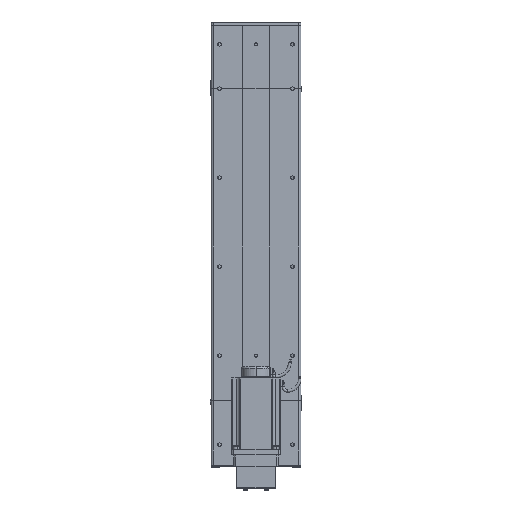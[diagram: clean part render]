
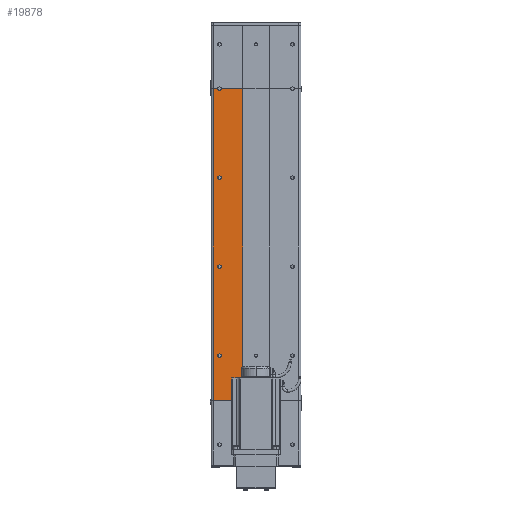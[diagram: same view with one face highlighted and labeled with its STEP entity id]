
A CAD part, front view. The second image highlights one B-rep face of the part: STEP entity #19878.
In plain terms, the highlighted planar face has unit normal (0, -1, 0).
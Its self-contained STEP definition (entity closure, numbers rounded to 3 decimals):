
#13178 = EDGE_LOOP ( 'NONE', ( #19297, #19805 ) ) ;
#17057 = VERTEX_POINT ( 'NONE', #26185 ) ;
#17543 = EDGE_CURVE ( 'NONE', #17057, #17591, #27019, .T. ) ;
#17591 = VERTEX_POINT ( 'NONE', #26995 ) ;
#17850 = EDGE_CURVE ( 'NONE', #17852, #17860, #27464, .T. ) ;
#17852 = VERTEX_POINT ( 'NONE', #27474 ) ;
#17860 = VERTEX_POINT ( 'NONE', #27441 ) ;
#17999 = EDGE_CURVE ( 'NONE', #18910, #18569, #27628, .T. ) ;
#18176 = EDGE_CURVE ( 'NONE', #18363, #18278, #27743, .T. ) ;
#18278 = VERTEX_POINT ( 'NONE', #27817 ) ;
#18363 = VERTEX_POINT ( 'NONE', #28124 ) ;
#18569 = VERTEX_POINT ( 'NONE', #28404 ) ;
#18689 = VERTEX_POINT ( 'NONE', #28070 ) ;
#18910 = VERTEX_POINT ( 'NONE', #28681 ) ;
#19089 = EDGE_CURVE ( 'NONE', #18689, #19162, #29346, .T. ) ;
#19118 = EDGE_LOOP ( 'NONE', ( #19563, #19881 ) ) ;
#19162 = VERTEX_POINT ( 'NONE', #29071 ) ;
#19297 = ORIENTED_EDGE ( 'NONE', *, *, #19615, .F. ) ;
#19444 = ORIENTED_EDGE ( 'NONE', *, *, #17850, .F. ) ;
#19563 = ORIENTED_EDGE ( 'NONE', *, *, #19705, .F. ) ;
#19586 = VERTEX_POINT ( 'NONE', #30130 ) ;
#19606 = ORIENTED_EDGE ( 'NONE', *, *, #19612, .F. ) ;
#19611 = EDGE_CURVE ( 'NONE', #19586, #18569, #30091, .T. ) ;
#19612 = EDGE_CURVE ( 'NONE', #19162, #18910, #30096, .T. ) ;
#19615 = EDGE_CURVE ( 'NONE', #18278, #18363, #29530, .T. ) ;
#19617 = ORIENTED_EDGE ( 'NONE', *, *, #19089, .F. ) ;
#19620 = EDGE_CURVE ( 'NONE', #18689, #19788, #28975, .T. ) ;
#19622 = ORIENTED_EDGE ( 'NONE', *, *, #17999, .F. ) ;
#19632 = EDGE_LOOP ( 'NONE', ( #19834, #19444 ) ) ;
#19705 = EDGE_CURVE ( 'NONE', #17591, #17057, #30497, .T. ) ;
#19732 = EDGE_CURVE ( 'NONE', #17860, #17852, #30396, .T. ) ;
#19761 = EDGE_LOOP ( 'NONE', ( #19622, #19606, #19617, #19791, #19795, #19794 ) ) ;
#19788 = VERTEX_POINT ( 'NONE', #30609 ) ;
#19791 = ORIENTED_EDGE ( 'NONE', *, *, #19620, .T. ) ;
#19793 = EDGE_CURVE ( 'NONE', #19788, #19586, #30617, .T. ) ;
#19794 = ORIENTED_EDGE ( 'NONE', *, *, #19611, .T. ) ;
#19795 = ORIENTED_EDGE ( 'NONE', *, *, #19793, .T. ) ;
#19805 = ORIENTED_EDGE ( 'NONE', *, *, #18176, .F. ) ;
#19834 = ORIENTED_EDGE ( 'NONE', *, *, #19732, .F. ) ;
#19878 = ADVANCED_FACE ( 'NONE', ( #37225, #37145, #37200, #37130 ), #37122, .F. ) ;
#19881 = ORIENTED_EDGE ( 'NONE', *, *, #17543, .F. ) ;
#26185 = CARTESIAN_POINT ( 'NONE',  ( -86., -34.5, 500. ) ) ;
#26885 = AXIS2_PLACEMENT_3D ( 'NONE', #26898, #26897, #26896 ) ;
#26896 = DIRECTION ( 'NONE',  ( 1., 0., 0. ) ) ;
#26897 = DIRECTION ( 'NONE',  ( 0., -1., 0. ) ) ;
#26898 = CARTESIAN_POINT ( 'NONE',  ( -82., -34.5, 500. ) ) ;
#26995 = CARTESIAN_POINT ( 'NONE',  ( -78., -34.5, 500. ) ) ;
#27019 = CIRCLE ( 'NONE', #26885, 4. ) ;
#27399 = DIRECTION ( 'NONE',  ( 1., 0., 0. ) ) ;
#27400 = DIRECTION ( 'NONE',  ( 0., -1., 0. ) ) ;
#27401 = CARTESIAN_POINT ( 'NONE',  ( -82., -34.5, 300. ) ) ;
#27402 = AXIS2_PLACEMENT_3D ( 'NONE', #27401, #27400, #27399 ) ;
#27441 = CARTESIAN_POINT ( 'NONE',  ( -78., -34.5, 300. ) ) ;
#27464 = CIRCLE ( 'NONE', #27402, 4. ) ;
#27474 = CARTESIAN_POINT ( 'NONE',  ( -86., -34.5, 300. ) ) ;
#27591 = DIRECTION ( 'NONE',  ( 1., 0., 0. ) ) ;
#27592 = CARTESIAN_POINT ( 'NONE',  ( -96., -34.5, 700. ) ) ;
#27628 = LINE ( 'NONE', #27592, #27678 ) ;
#27678 = VECTOR ( 'NONE', #27591, 1000. ) ;
#27743 = CIRCLE ( 'NONE', #27889, 4. ) ;
#27817 = CARTESIAN_POINT ( 'NONE',  ( -78., -34.5, 100. ) ) ;
#27886 = DIRECTION ( 'NONE',  ( 1., 0., 0. ) ) ;
#27887 = DIRECTION ( 'NONE',  ( 0., -1., 0. ) ) ;
#27888 = CARTESIAN_POINT ( 'NONE',  ( -82., -34.5, 100. ) ) ;
#27889 = AXIS2_PLACEMENT_3D ( 'NONE', #27888, #27887, #27886 ) ;
#28070 = CARTESIAN_POINT ( 'NONE',  ( -96., -34.5, 700. ) ) ;
#28124 = CARTESIAN_POINT ( 'NONE',  ( -86., -34.5, 100. ) ) ;
#28404 = CARTESIAN_POINT ( 'NONE',  ( -30., -34.5, 700. ) ) ;
#28681 = CARTESIAN_POINT ( 'NONE',  ( -78., -34.5, 700. ) ) ;
#28835 = DIRECTION ( 'NONE',  ( 0., -1., 0. ) ) ;
#28975 = LINE ( 'NONE', #28981, #29277 ) ;
#28981 = CARTESIAN_POINT ( 'NONE',  ( -96., -34.5, 700. ) ) ;
#29036 = DIRECTION ( 'NONE',  ( 1., 0., 0. ) ) ;
#29038 = VECTOR ( 'NONE', #29036, 1000. ) ;
#29071 = CARTESIAN_POINT ( 'NONE',  ( -86., -34.5, 700. ) ) ;
#29272 = DIRECTION ( 'NONE',  ( 0., 0., -1. ) ) ;
#29277 = VECTOR ( 'NONE', #29272, 1000. ) ;
#29287 = DIRECTION ( 'NONE',  ( 1., 0., 0. ) ) ;
#29343 = CARTESIAN_POINT ( 'NONE',  ( -96., -34.5, 700. ) ) ;
#29346 = LINE ( 'NONE', #29343, #29038 ) ;
#29520 = AXIS2_PLACEMENT_3D ( 'NONE', #29597, #28835, #29287 ) ;
#29530 = CIRCLE ( 'NONE', #29520, 4. ) ;
#29597 = CARTESIAN_POINT ( 'NONE',  ( -82., -34.5, 100. ) ) ;
#29978 = DIRECTION ( 'NONE',  ( 0., -1., 0. ) ) ;
#30065 = CARTESIAN_POINT ( 'NONE',  ( -82., -34.5, 700. ) ) ;
#30085 = DIRECTION ( 'NONE',  ( 1., 0., 0. ) ) ;
#30088 = DIRECTION ( 'NONE',  ( 0., 0., 1. ) ) ;
#30089 = VECTOR ( 'NONE', #30088, 1000. ) ;
#30090 = CARTESIAN_POINT ( 'NONE',  ( -30., -34.5, 0. ) ) ;
#30091 = LINE ( 'NONE', #30090, #30089 ) ;
#30092 = AXIS2_PLACEMENT_3D ( 'NONE', #30065, #29978, #30085 ) ;
#30096 = CIRCLE ( 'NONE', #30092, 4. ) ;
#30130 = CARTESIAN_POINT ( 'NONE',  ( -30., -34.5, 0. ) ) ;
#30396 = CIRCLE ( 'NONE', #30402, 4. ) ;
#30398 = CARTESIAN_POINT ( 'NONE',  ( -82., -34.5, 300. ) ) ;
#30399 = DIRECTION ( 'NONE',  ( 1., 0., 0. ) ) ;
#30402 = AXIS2_PLACEMENT_3D ( 'NONE', #30398, #30403, #30399 ) ;
#30403 = DIRECTION ( 'NONE',  ( 0., -1., 0. ) ) ;
#30472 = DIRECTION ( 'NONE',  ( 1., 0., 0. ) ) ;
#30489 = DIRECTION ( 'NONE',  ( 0., -1., 0. ) ) ;
#30490 = CARTESIAN_POINT ( 'NONE',  ( -82., -34.5, 500. ) ) ;
#30491 = AXIS2_PLACEMENT_3D ( 'NONE', #30490, #30489, #30472 ) ;
#30497 = CIRCLE ( 'NONE', #30491, 4. ) ;
#30589 = DIRECTION ( 'NONE',  ( 1., 0., 0. ) ) ;
#30607 = CARTESIAN_POINT ( 'NONE',  ( -96., -34.5, 0. ) ) ;
#30609 = CARTESIAN_POINT ( 'NONE',  ( -96., -34.5, 0. ) ) ;
#30617 = LINE ( 'NONE', #30607, #30618 ) ;
#30618 = VECTOR ( 'NONE', #30589, 1000. ) ;
#37068 = AXIS2_PLACEMENT_3D ( 'NONE', #37421, #37419, #37415 ) ;
#37122 = PLANE ( 'NONE',  #37068 ) ;
#37130 = FACE_OUTER_BOUND ( 'NONE', #19761, .T. ) ;
#37145 = FACE_BOUND ( 'NONE', #19632, .T. ) ;
#37200 = FACE_BOUND ( 'NONE', #13178, .T. ) ;
#37225 = FACE_BOUND ( 'NONE', #19118, .T. ) ;
#37415 = DIRECTION ( 'NONE',  ( -1., 0., 0. ) ) ;
#37419 = DIRECTION ( 'NONE',  ( 0., 1., 0. ) ) ;
#37421 = CARTESIAN_POINT ( 'NONE',  ( -96., -34.5, 700. ) ) ;
